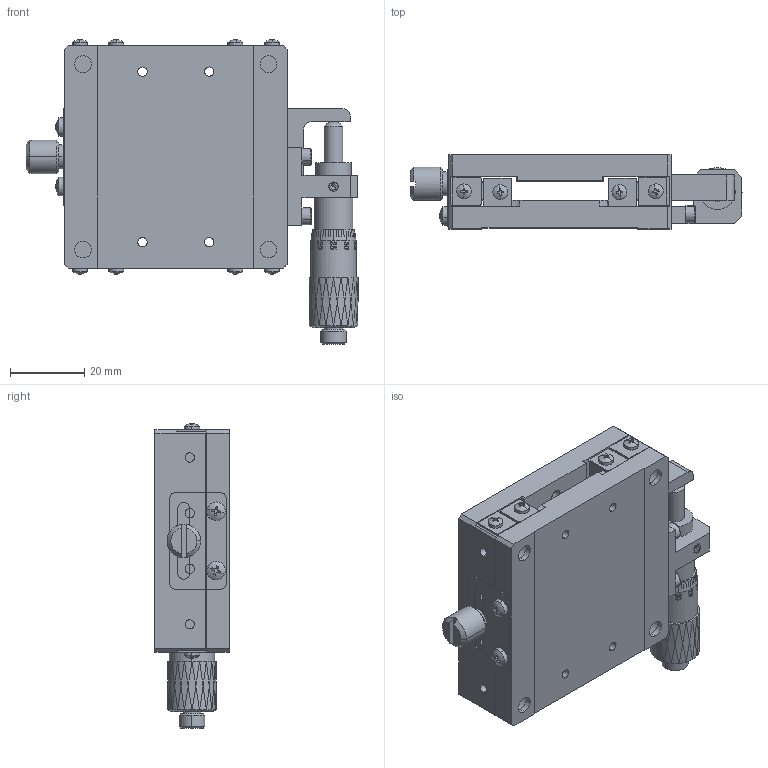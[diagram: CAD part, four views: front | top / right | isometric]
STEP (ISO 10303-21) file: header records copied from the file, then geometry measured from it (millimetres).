
FILE_DESCRIPTION (( 'STEP AP203' ), '1' );
FILE_NAME ('BGA60.STEP', '2023-08-28T05:55:24', ( 'China' ), ( 'Microsoft' ), 'SwSTEP 2.0', 'SolidWorks 2023', '' );
FILE_SCHEMA (( 'CONFIG_CONTROL_DESIGN' ));
Products named in the file (1): BGA60
Bounding box: 89.5 x 20 x 82.08 mm (x, y, z)
Volume: 64671.3 mm3; surface area: 39296 mm2
Topology: 68 solids, 68 shells, 1740 faces, 4455 edges, 2886 vertices
Faces by surface type: plane 536, cylinder 521, bspline 401, cone 200, sphere 74, torus 8
Entity records: 87221 total; most frequent: CARTESIAN_POINT 49281, ORIENTED_EDGE 8518, DIRECTION 6533, EDGE_CURVE 4259, VERTEX_POINT 2808, AXIS2_PLACEMENT_3D 2558, EDGE_LOOP 2031, FACE_OUTER_BOUND 1740
